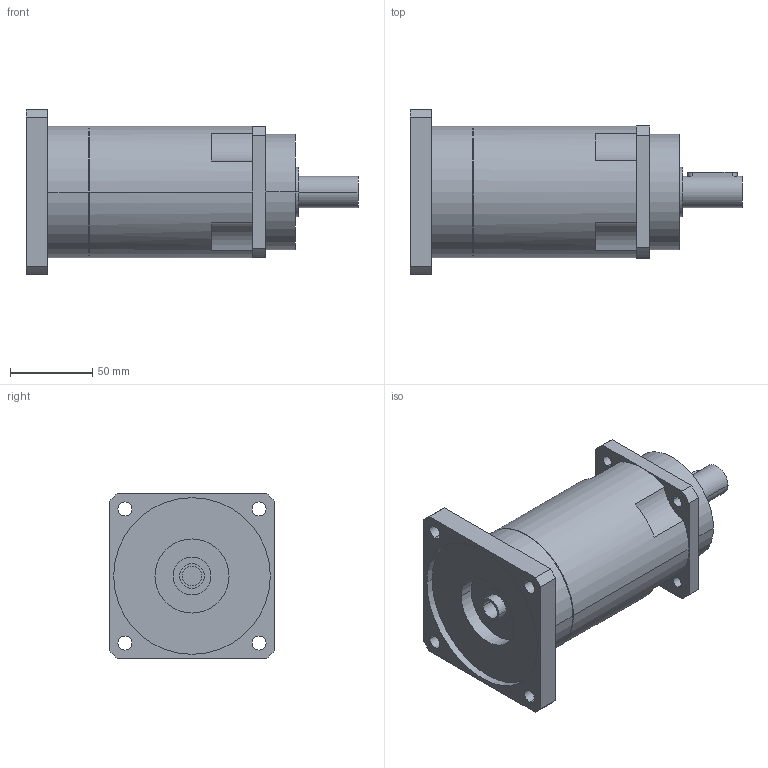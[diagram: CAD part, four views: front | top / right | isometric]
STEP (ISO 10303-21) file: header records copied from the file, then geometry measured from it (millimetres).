
FILE_DESCRIPTION(('CoCreate Modeling STEP Export'),'2;1');
FILE_NAME('GPR100_ig-48-64-80-100-120-144-180-216_19_B5_12_P07.stp','2014-08-26T11:53:54',(''),(''),'CoCreate Modeling STEP processor for AP214 (Solid Model)','CoCreate Modeling 16.00C 25-Feb-2009 (C) Parametric Technology GmbH','');
FILE_SCHEMA(('AUTOMOTIVE_DESIGN { 1 0 10303 214 1 1 1 1 }'));
Length unit declared in the file: millimetre
Products named in the file (2): GPR100_ig-48-64-80-100-120-144-180-216_19_B5_12_P07
Assembly tree (1 placements, depth 2):
  GPR100_ig-48-64-80-100-120-144-180-216_19_B5_12_P07
    GPR100_ig-48-64-80-100-120-144-180-216_19_B5_12_P07
Bounding box: 201.4 x 100 x 100 mm (x, y, z)
Volume: 827050.1 mm3; surface area: 73941.6 mm2
Topology: 1 solids, 1 shells, 89 faces, 245 edges, 167 vertices
Faces by surface type: cylinder 52, plane 31, cone 6
Entity records: 2602 total; most frequent: ORIENTED_EDGE 486, CARTESIAN_POINT 472, DIRECTION 386, EDGE_CURVE 243, VERTEX_POINT 167, AXIS2_PLACEMENT_3D 145, EDGE_LOOP 116, VECTOR 96
